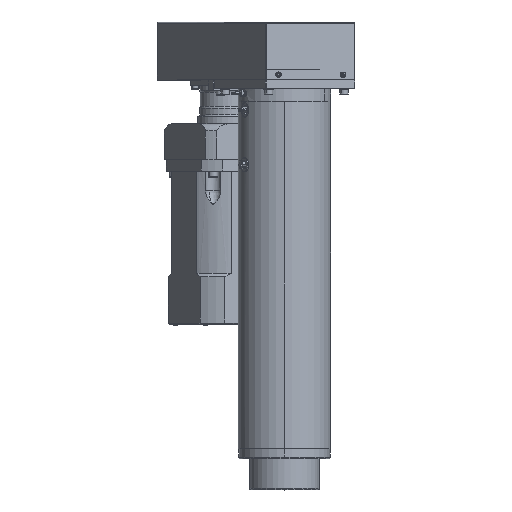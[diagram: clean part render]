
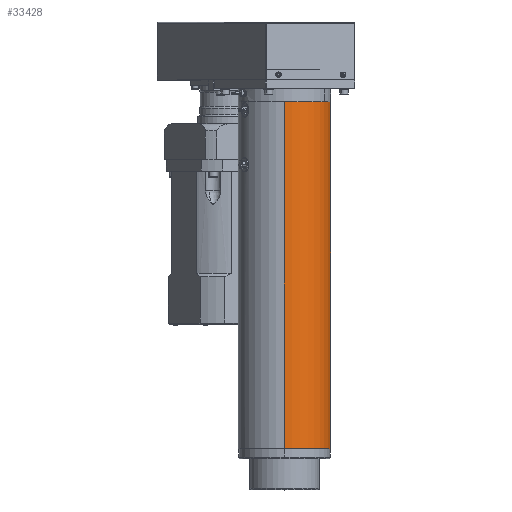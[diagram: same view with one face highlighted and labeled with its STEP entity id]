
A CAD part, top view. The second image highlights one B-rep face of the part: STEP entity #33428.
In plain terms, the highlighted cylindrical face has radius 89 mm (diameter 178 mm), a partial arc.
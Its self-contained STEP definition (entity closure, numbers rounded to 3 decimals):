
#826 = CARTESIAN_POINT ( 'NONE',  ( 0., 0., 0. ) ) ;
#1108 = AXIS2_PLACEMENT_3D ( 'NONE', #2449, #25592, #5810 ) ;
#2449 = CARTESIAN_POINT ( 'NONE',  ( 0., 690., 0. ) ) ;
#3577 = CIRCLE ( 'NONE', #39296, 89. ) ;
#5272 = DIRECTION ( 'NONE',  ( 0., -1., 0. ) ) ;
#5810 = DIRECTION ( 'NONE',  ( 0., 0., -1. ) ) ;
#6679 = CARTESIAN_POINT ( 'NONE',  ( 0., 0., -89. ) ) ;
#8021 = EDGE_LOOP ( 'NONE', ( #41603, #14766, #9611, #18444 ) ) ;
#8737 = CARTESIAN_POINT ( 'NONE',  ( 0., 0., 89. ) ) ;
#9029 = LINE ( 'NONE', #8737, #35365 ) ;
#9611 = ORIENTED_EDGE ( 'NONE', *, *, #31084, .F. ) ;
#10835 = DIRECTION ( 'NONE',  ( 0., -1., 0. ) ) ;
#14766 = ORIENTED_EDGE ( 'NONE', *, *, #19383, .T. ) ;
#14920 = CARTESIAN_POINT ( 'NONE',  ( 0., 20., -89. ) ) ;
#18444 = ORIENTED_EDGE ( 'NONE', *, *, #30327, .F. ) ;
#19383 = EDGE_CURVE ( 'NONE', #31948, #28446, #9029, .T. ) ;
#20561 = AXIS2_PLACEMENT_3D ( 'NONE', #826, #10835, #40411 ) ;
#21392 = VERTEX_POINT ( 'NONE', #14920 ) ;
#21985 = CYLINDRICAL_SURFACE ( 'NONE', #20561, 89. ) ;
#22308 = CARTESIAN_POINT ( 'NONE',  ( 0., 690., 89. ) ) ;
#25064 = CARTESIAN_POINT ( 'NONE',  ( 0., 20., 0. ) ) ;
#25592 = DIRECTION ( 'NONE',  ( 0., -1., 0. ) ) ;
#27500 = VERTEX_POINT ( 'NONE', #28721 ) ;
#27589 = CARTESIAN_POINT ( 'NONE',  ( 0., 20., 89. ) ) ;
#28383 = DIRECTION ( 'NONE',  ( 0., 0., -1. ) ) ;
#28446 = VERTEX_POINT ( 'NONE', #27589 ) ;
#28481 = DIRECTION ( 'NONE',  ( 0., -1., 0. ) ) ;
#28721 = CARTESIAN_POINT ( 'NONE',  ( 0., 690., -89. ) ) ;
#29672 = CIRCLE ( 'NONE', #1108, 89. ) ;
#30327 = EDGE_CURVE ( 'NONE', #27500, #21392, #40787, .T. ) ;
#31084 = EDGE_CURVE ( 'NONE', #21392, #28446, #3577, .T. ) ;
#31948 = VERTEX_POINT ( 'NONE', #22308 ) ;
#32954 = DIRECTION ( 'NONE',  ( 0., -1., 0. ) ) ;
#33428 = ADVANCED_FACE ( 'NONE', ( #40603 ), #21985, .T. ) ;
#35365 = VECTOR ( 'NONE', #28481, 1000. ) ;
#38732 = VECTOR ( 'NONE', #32954, 1000. ) ;
#39296 = AXIS2_PLACEMENT_3D ( 'NONE', #25064, #5272, #28383 ) ;
#40063 = EDGE_CURVE ( 'NONE', #27500, #31948, #29672, .T. ) ;
#40411 = DIRECTION ( 'NONE',  ( 0., 0., -1. ) ) ;
#40603 = FACE_OUTER_BOUND ( 'NONE', #8021, .T. ) ;
#40787 = LINE ( 'NONE', #6679, #38732 ) ;
#41603 = ORIENTED_EDGE ( 'NONE', *, *, #40063, .T. ) ;
